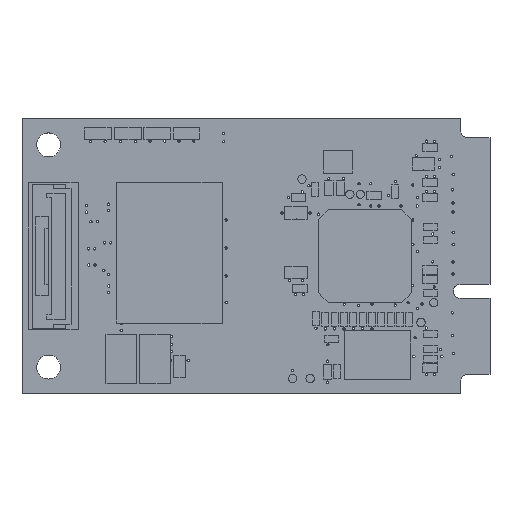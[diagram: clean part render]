
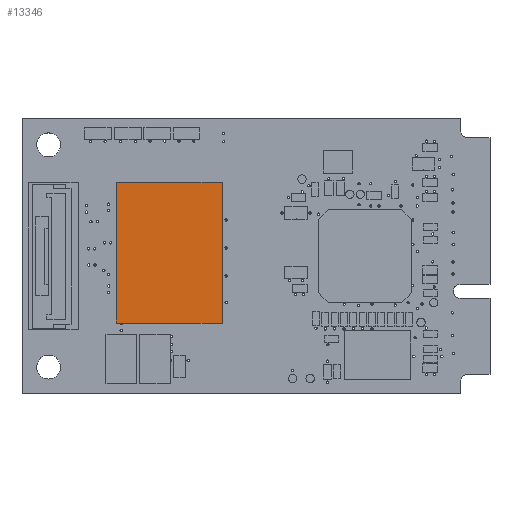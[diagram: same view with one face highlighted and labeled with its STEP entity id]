
A CAD part, top view. The second image highlights one B-rep face of the part: STEP entity #13346.
In plain terms, the highlighted planar face has unit normal (0, 0, 1).
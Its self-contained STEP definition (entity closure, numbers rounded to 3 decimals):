
#13231=DIRECTION('',(1.,0.,0.));
#13232=VECTOR('',#13231,11.532);
#13233=CARTESIAN_POINT('',(-5.766,-7.658,4.191));
#13234=LINE('',#13233,#13232);
#13235=DIRECTION('',(0.,-1.,0.));
#13236=VECTOR('',#13235,15.316);
#13237=CARTESIAN_POINT('',(-5.766,7.658,4.191));
#13238=LINE('',#13237,#13236);
#13239=DIRECTION('',(-1.,0.,0.));
#13240=VECTOR('',#13239,11.532);
#13241=CARTESIAN_POINT('',(5.766,7.658,4.191));
#13242=LINE('',#13241,#13240);
#13243=DIRECTION('',(0.,1.,0.));
#13244=VECTOR('',#13243,15.316);
#13245=CARTESIAN_POINT('',(5.766,-7.658,4.191));
#13246=LINE('',#13245,#13244);
#13255=CARTESIAN_POINT('',(-5.766,-7.658,4.191));
#13256=CARTESIAN_POINT('',(5.766,-7.658,4.191));
#13257=VERTEX_POINT('',#13255);
#13258=VERTEX_POINT('',#13256);
#13259=CARTESIAN_POINT('',(5.766,7.658,4.191));
#13260=VERTEX_POINT('',#13259);
#13261=CARTESIAN_POINT('',(-5.766,7.658,4.191));
#13262=VERTEX_POINT('',#13261);
#13335=CARTESIAN_POINT('',(0.,0.,4.191));
#13336=DIRECTION('',(0.,0.,1.));
#13337=DIRECTION('',(1.,0.,0.));
#13338=AXIS2_PLACEMENT_3D('',#13335,#13336,#13337);
#13339=PLANE('',#13338);
#13340=ORIENTED_EDGE('',*,*,#13287,.F.);
#13341=ORIENTED_EDGE('',*,*,#13302,.F.);
#13342=ORIENTED_EDGE('',*,*,#13316,.F.);
#13343=ORIENTED_EDGE('',*,*,#13329,.F.);
#13344=EDGE_LOOP('',(#13340,#13341,#13342,#13343));
#13345=FACE_OUTER_BOUND('',#13344,.F.);
#13287=EDGE_CURVE('',#13257,#13258,#13234,.T.);
#13302=EDGE_CURVE('',#13262,#13257,#13238,.T.);
#13316=EDGE_CURVE('',#13260,#13262,#13242,.T.);
#13329=EDGE_CURVE('',#13258,#13260,#13246,.T.);
#13346=ADVANCED_FACE('',(#13345),#13339,.T.);
